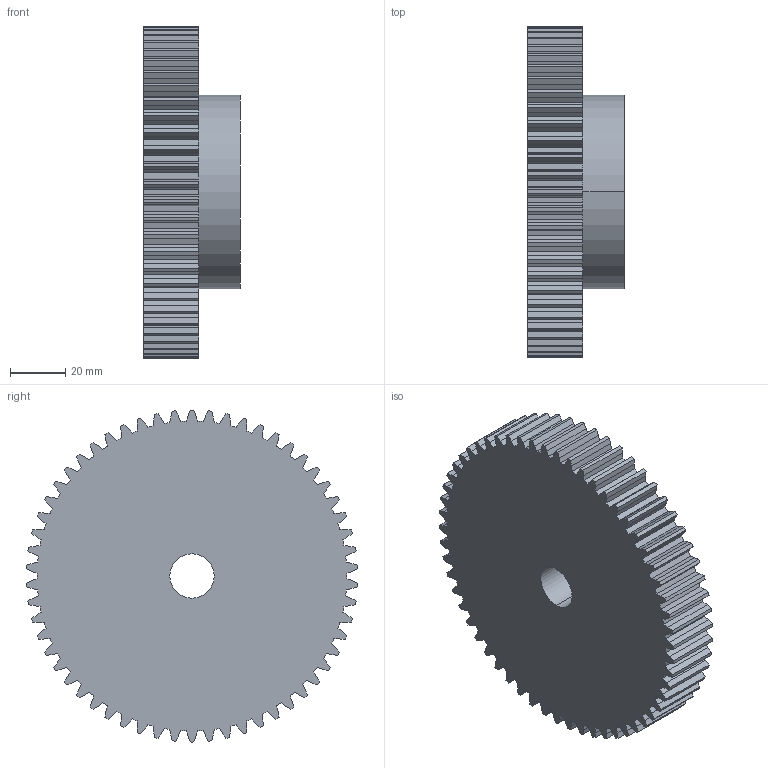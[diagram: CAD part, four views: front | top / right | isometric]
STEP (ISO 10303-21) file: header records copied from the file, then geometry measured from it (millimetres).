
FILE_DESCRIPTION (( 'STEP AP203' ), '1' );
FILE_NAME ('PM 28058.STEP', '2013-09-25T08:56:26', ( '' ), ( '' ), 'SwSTEP 2.0', 'SolidWorks 2010', '' );
FILE_SCHEMA (( 'CONFIG_CONTROL_DESIGN' ));
Length unit declared in the file: millimetre
Products named in the file (1): PM 28058
Bounding box: 35 x 119.89 x 120 mm (x, y, z)
Volume: 260501.1 mm3; surface area: 39403.7 mm2
Topology: 1 solids, 1 shells, 355 faces, 1056 edges, 704 vertices
Faces by surface type: plane 235, cylinder 120
Entity records: 12203 total; most frequent: CARTESIAN_POINT 3130, ORIENTED_EDGE 2112, DIRECTION 1564, EDGE_CURVE 1056, VERTEX_POINT 704, VECTOR 584, LINE 584, AXIS2_PLACEMENT_3D 490
